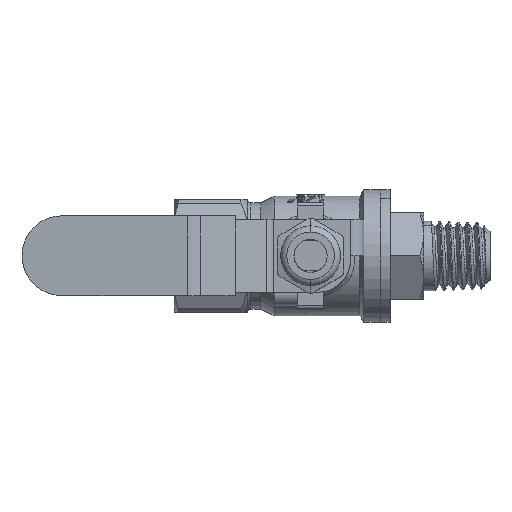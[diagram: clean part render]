
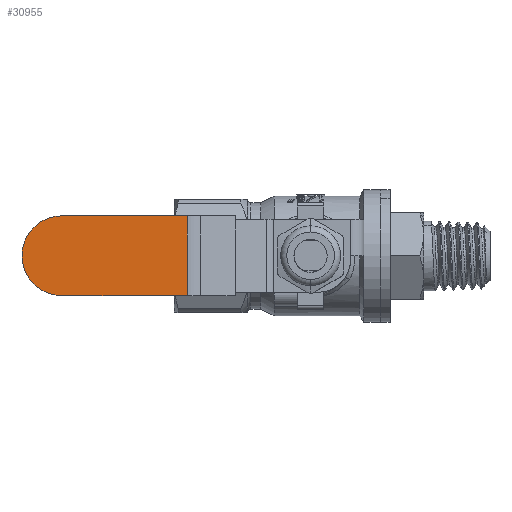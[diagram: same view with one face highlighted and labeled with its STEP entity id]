
A CAD part, top view. The second image highlights one B-rep face of the part: STEP entity #30955.
In plain terms, the highlighted planar face has unit normal (0, 0, 1).
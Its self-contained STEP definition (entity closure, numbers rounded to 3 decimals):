
#30739 = PLANE('',#30740);
#30740 = AXIS2_PLACEMENT_3D('',#30741,#30742,#30743);
#30741 = CARTESIAN_POINT('',(-19.186,-11.96,
    21.038));
#30742 = DIRECTION('',(0.,1.,0.));
#30743 = DIRECTION('',(-1.,0.,0.));
#30800 = PLANE('',#30801);
#30801 = AXIS2_PLACEMENT_3D('',#30802,#30803,#30804);
#30802 = CARTESIAN_POINT('',(-19.186,0.04,
    21.038));
#30803 = DIRECTION('',(0.,1.,0.));
#30804 = DIRECTION('',(-1.,0.,0.));
#30889 = CYLINDRICAL_SURFACE('',#30890,6.);
#30890 = AXIS2_PLACEMENT_3D('',#30891,#30892,#30893);
#30891 = CARTESIAN_POINT('',(-37.425,-5.96,
    26.538));
#30892 = DIRECTION('',(0.,0.,1.));
#30893 = DIRECTION('',(0.,1.,0.));
#30922 = CYLINDRICAL_SURFACE('',#30923,6.);
#30923 = AXIS2_PLACEMENT_3D('',#30924,#30925,#30926);
#30924 = CARTESIAN_POINT('',(-37.425,-5.96,
    21.038));
#30925 = DIRECTION('',(0.,0.,-1.));
#30926 = DIRECTION('',(0.,-1.,0.));
#30955 = ADVANCED_FACE('',(#30956),#30971,.F.);
#30956 = FACE_BOUND('',#30957,.T.);
#30957 = EDGE_LOOP('',(#30958,#30993,#31021,#31044,#31072));
#30958 = ORIENTED_EDGE('',*,*,#30959,.T.);
#30959 = EDGE_CURVE('',#30960,#30962,#30964,.T.);
#30960 = VERTEX_POINT('',#30961);
#30961 = CARTESIAN_POINT('',(-37.425,0.04,
    26.538));
#30962 = VERTEX_POINT('',#30963);
#30963 = CARTESIAN_POINT('',(-43.425,-5.96,
    26.538));
#30964 = SURFACE_CURVE('',#30965,(#30970,#30986),.PCURVE_S1.);
#30965 = CIRCLE('',#30966,6.);
#30966 = AXIS2_PLACEMENT_3D('',#30967,#30968,#30969);
#30967 = CARTESIAN_POINT('',(-37.425,-5.96,
    26.538));
#30968 = DIRECTION('',(0.,0.,1.));
#30969 = DIRECTION('',(-1.,0.,0.));
#30970 = PCURVE('',#30971,#30976);
#30971 = PLANE('',#30972);
#30972 = AXIS2_PLACEMENT_3D('',#30973,#30974,#30975);
#30973 = CARTESIAN_POINT('',(-43.425,0.04,
    26.538));
#30974 = DIRECTION('',(0.,0.,-1.));
#30975 = DIRECTION('',(-1.,0.,0.));
#30976 = DEFINITIONAL_REPRESENTATION('',(#30977),#30985);
#30977 = ( BOUNDED_CURVE() B_SPLINE_CURVE(2,(#30978,#30979,#30980,#30981
    ,#30982,#30983,#30984),.UNSPECIFIED.,.T.,.F.) 
B_SPLINE_CURVE_WITH_KNOTS((1,2,2,2,2,1),(-2.094,0.,
    2.094,4.189,6.283,8.378),
.UNSPECIFIED.) CURVE() GEOMETRIC_REPRESENTATION_ITEM() 
RATIONAL_B_SPLINE_CURVE((1.,0.5,1.,0.5,1.,0.5,1.)) REPRESENTATION_ITEM(
  '') );
#30978 = CARTESIAN_POINT('',(0.,-6.));
#30979 = CARTESIAN_POINT('',(0.,-16.392));
#30980 = CARTESIAN_POINT('',(-9.,-11.196));
#30981 = CARTESIAN_POINT('',(-18.,-6.));
#30982 = CARTESIAN_POINT('',(-9.,-0.804));
#30983 = CARTESIAN_POINT('',(0.,4.392));
#30984 = CARTESIAN_POINT('',(0.,-6.));
#30985 = ( GEOMETRIC_REPRESENTATION_CONTEXT(2) 
PARAMETRIC_REPRESENTATION_CONTEXT() REPRESENTATION_CONTEXT('2D SPACE',''
  ) );
#30986 = PCURVE('',#30922,#30987);
#30987 = DEFINITIONAL_REPRESENTATION('',(#30988),#30992);
#30988 = LINE('',#30989,#30990);
#30989 = CARTESIAN_POINT('',(7.854,-5.5));
#30990 = VECTOR('',#30991,1.);
#30991 = DIRECTION('',(-1.,0.));
#30992 = ( GEOMETRIC_REPRESENTATION_CONTEXT(2) 
PARAMETRIC_REPRESENTATION_CONTEXT() REPRESENTATION_CONTEXT('2D SPACE',''
  ) );
#30993 = ORIENTED_EDGE('',*,*,#30994,.T.);
#30994 = EDGE_CURVE('',#30962,#30995,#30997,.T.);
#30995 = VERTEX_POINT('',#30996);
#30996 = CARTESIAN_POINT('',(-37.425,-11.96,
    26.538));
#30997 = SURFACE_CURVE('',#30998,(#31003,#31014),.PCURVE_S1.);
#30998 = CIRCLE('',#30999,6.);
#30999 = AXIS2_PLACEMENT_3D('',#31000,#31001,#31002);
#31000 = CARTESIAN_POINT('',(-37.425,-5.96,
    26.538));
#31001 = DIRECTION('',(0.,0.,1.));
#31002 = DIRECTION('',(-1.,0.,0.));
#31003 = PCURVE('',#30971,#31004);
#31004 = DEFINITIONAL_REPRESENTATION('',(#31005),#31013);
#31005 = ( BOUNDED_CURVE() B_SPLINE_CURVE(2,(#31006,#31007,#31008,#31009
    ,#31010,#31011,#31012),.UNSPECIFIED.,.T.,.F.) 
B_SPLINE_CURVE_WITH_KNOTS((1,2,2,2,2,1),(-2.094,0.,
    2.094,4.189,6.283,8.378),
.UNSPECIFIED.) CURVE() GEOMETRIC_REPRESENTATION_ITEM() 
RATIONAL_B_SPLINE_CURVE((1.,0.5,1.,0.5,1.,0.5,1.)) REPRESENTATION_ITEM(
  '') );
#31006 = CARTESIAN_POINT('',(0.,-6.));
#31007 = CARTESIAN_POINT('',(0.,-16.392));
#31008 = CARTESIAN_POINT('',(-9.,-11.196));
#31009 = CARTESIAN_POINT('',(-18.,-6.));
#31010 = CARTESIAN_POINT('',(-9.,-0.804));
#31011 = CARTESIAN_POINT('',(0.,4.392));
#31012 = CARTESIAN_POINT('',(0.,-6.));
#31013 = ( GEOMETRIC_REPRESENTATION_CONTEXT(2) 
PARAMETRIC_REPRESENTATION_CONTEXT() REPRESENTATION_CONTEXT('2D SPACE',''
  ) );
#31014 = PCURVE('',#30889,#31015);
#31015 = DEFINITIONAL_REPRESENTATION('',(#31016),#31020);
#31016 = LINE('',#31017,#31018);
#31017 = CARTESIAN_POINT('',(1.571,0.));
#31018 = VECTOR('',#31019,1.);
#31019 = DIRECTION('',(1.,0.));
#31020 = ( GEOMETRIC_REPRESENTATION_CONTEXT(2) 
PARAMETRIC_REPRESENTATION_CONTEXT() REPRESENTATION_CONTEXT('2D SPACE',''
  ) );
#31021 = ORIENTED_EDGE('',*,*,#31022,.T.);
#31022 = EDGE_CURVE('',#30995,#31023,#31025,.T.);
#31023 = VERTEX_POINT('',#31024);
#31024 = CARTESIAN_POINT('',(-18.556,-11.96,
    26.538));
#31025 = SURFACE_CURVE('',#31026,(#31030,#31037),.PCURVE_S1.);
#31026 = LINE('',#31027,#31028);
#31027 = CARTESIAN_POINT('',(-43.425,-11.96,
    26.538));
#31028 = VECTOR('',#31029,1.);
#31029 = DIRECTION('',(1.,0.,0.));
#31030 = PCURVE('',#30971,#31031);
#31031 = DEFINITIONAL_REPRESENTATION('',(#31032),#31036);
#31032 = LINE('',#31033,#31034);
#31033 = CARTESIAN_POINT('',(0.,-12.));
#31034 = VECTOR('',#31035,1.);
#31035 = DIRECTION('',(-1.,0.));
#31036 = ( GEOMETRIC_REPRESENTATION_CONTEXT(2) 
PARAMETRIC_REPRESENTATION_CONTEXT() REPRESENTATION_CONTEXT('2D SPACE',''
  ) );
#31037 = PCURVE('',#30739,#31038);
#31038 = DEFINITIONAL_REPRESENTATION('',(#31039),#31043);
#31039 = LINE('',#31040,#31041);
#31040 = CARTESIAN_POINT('',(24.239,5.5));
#31041 = VECTOR('',#31042,1.);
#31042 = DIRECTION('',(-1.,0.));
#31043 = ( GEOMETRIC_REPRESENTATION_CONTEXT(2) 
PARAMETRIC_REPRESENTATION_CONTEXT() REPRESENTATION_CONTEXT('2D SPACE',''
  ) );
#31044 = ORIENTED_EDGE('',*,*,#31045,.F.);
#31045 = EDGE_CURVE('',#31046,#31023,#31048,.T.);
#31046 = VERTEX_POINT('',#31047);
#31047 = CARTESIAN_POINT('',(-18.556,0.04,
    26.538));
#31048 = SURFACE_CURVE('',#31049,(#31053,#31060),.PCURVE_S1.);
#31049 = LINE('',#31050,#31051);
#31050 = CARTESIAN_POINT('',(-18.556,0.04,
    26.538));
#31051 = VECTOR('',#31052,1.);
#31052 = DIRECTION('',(0.,-1.,0.));
#31053 = PCURVE('',#30971,#31054);
#31054 = DEFINITIONAL_REPRESENTATION('',(#31055),#31059);
#31055 = LINE('',#31056,#31057);
#31056 = CARTESIAN_POINT('',(-24.869,0.));
#31057 = VECTOR('',#31058,1.);
#31058 = DIRECTION('',(0.,-1.));
#31059 = ( GEOMETRIC_REPRESENTATION_CONTEXT(2) 
PARAMETRIC_REPRESENTATION_CONTEXT() REPRESENTATION_CONTEXT('2D SPACE',''
  ) );
#31060 = PCURVE('',#31061,#31066);
#31061 = CYLINDRICAL_SURFACE('',#31062,3.5);
#31062 = AXIS2_PLACEMENT_3D('',#31063,#31064,#31065);
#31063 = CARTESIAN_POINT('',(-18.556,0.04,
    23.038));
#31064 = DIRECTION('',(0.,-1.,0.));
#31065 = DIRECTION('',(1.,0.,0.));
#31066 = DEFINITIONAL_REPRESENTATION('',(#31067),#31071);
#31067 = LINE('',#31068,#31069);
#31068 = CARTESIAN_POINT('',(1.571,0.));
#31069 = VECTOR('',#31070,1.);
#31070 = DIRECTION('',(0.,1.));
#31071 = ( GEOMETRIC_REPRESENTATION_CONTEXT(2) 
PARAMETRIC_REPRESENTATION_CONTEXT() REPRESENTATION_CONTEXT('2D SPACE',''
  ) );
#31072 = ORIENTED_EDGE('',*,*,#31073,.F.);
#31073 = EDGE_CURVE('',#30960,#31046,#31074,.T.);
#31074 = SURFACE_CURVE('',#31075,(#31079,#31086),.PCURVE_S1.);
#31075 = LINE('',#31076,#31077);
#31076 = CARTESIAN_POINT('',(-43.425,0.04,
    26.538));
#31077 = VECTOR('',#31078,1.);
#31078 = DIRECTION('',(1.,0.,0.));
#31079 = PCURVE('',#30971,#31080);
#31080 = DEFINITIONAL_REPRESENTATION('',(#31081),#31085);
#31081 = LINE('',#31082,#31083);
#31082 = CARTESIAN_POINT('',(0.,0.));
#31083 = VECTOR('',#31084,1.);
#31084 = DIRECTION('',(-1.,0.));
#31085 = ( GEOMETRIC_REPRESENTATION_CONTEXT(2) 
PARAMETRIC_REPRESENTATION_CONTEXT() REPRESENTATION_CONTEXT('2D SPACE',''
  ) );
#31086 = PCURVE('',#30800,#31087);
#31087 = DEFINITIONAL_REPRESENTATION('',(#31088),#31092);
#31088 = LINE('',#31089,#31090);
#31089 = CARTESIAN_POINT('',(24.239,5.5));
#31090 = VECTOR('',#31091,1.);
#31091 = DIRECTION('',(-1.,0.));
#31092 = ( GEOMETRIC_REPRESENTATION_CONTEXT(2) 
PARAMETRIC_REPRESENTATION_CONTEXT() REPRESENTATION_CONTEXT('2D SPACE',''
  ) );
